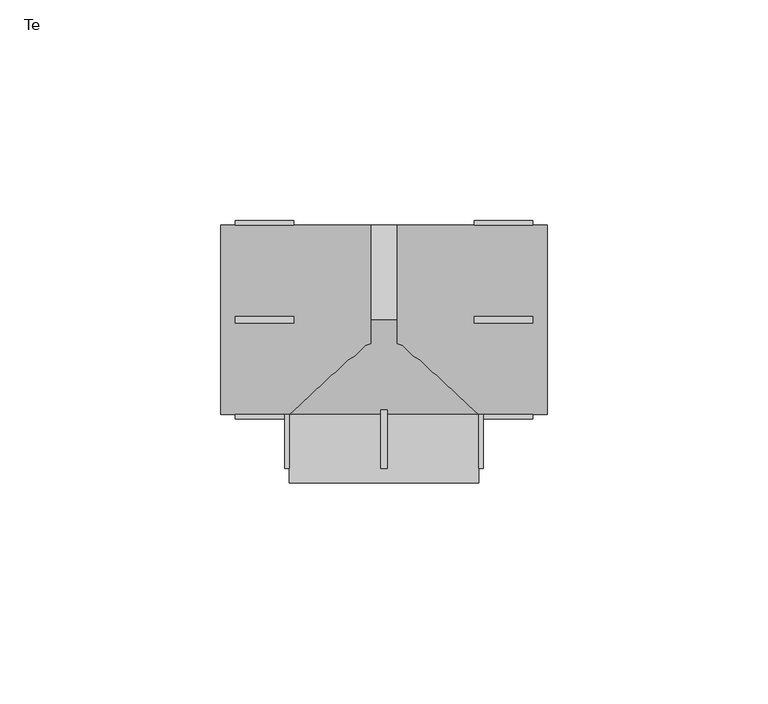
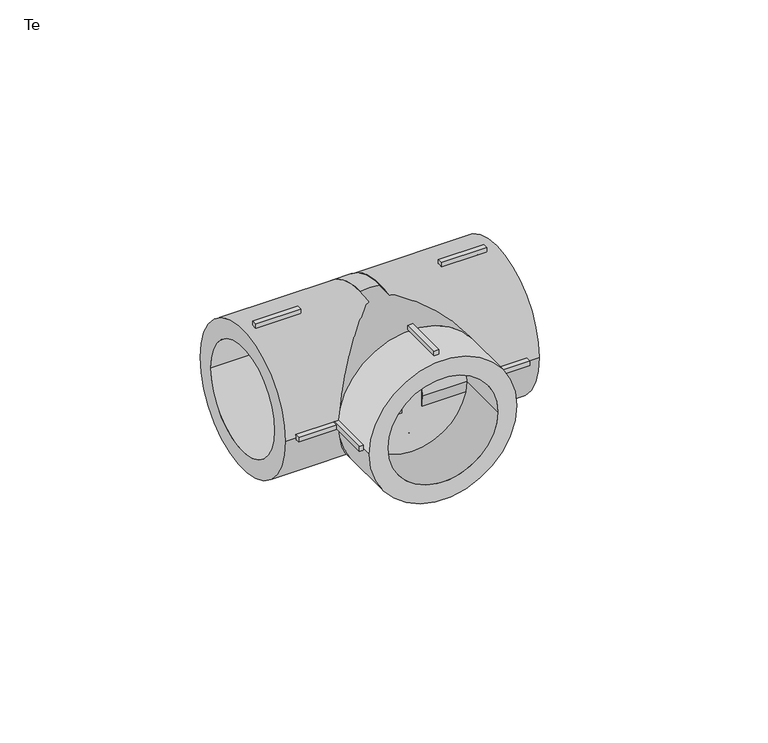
"""IFC4 building model written with IfcOpenShell, lengths in millimetres: pipe fitting geometry, EGB_VASEN_ PPR_Te WXR300_Te reducida WXR310 : Te."""

import ifcopenshell
import ifcopenshell.guid

model = None  # the IFC model being written
_history = None  # IfcOwnerHistory: only IFC2X3 demands one
_inside = {}  # id of a spatial element -> (the spatial element, [elements in it])
_under = {}  # id of a project, library or spatial element -> (it, [spatial elements below it])
_declared = {}  # id of a project -> (the project, [libraries it declares])
_typed = {}  # id of a type object -> (the type object, [elements of that type])
_made_of = {}  # id of a material, layer set ... -> (it, [elements and type objects made of it])


def new_model(schema):
    """Start an empty IFC model of exactly this schema.

    Asked for "IFC4X3", IfcOpenShell would pick the latest addendum, in which some entities
    have other attributes; the version numbers below select the first issue.
    IFC2X3 requires an IfcOwnerHistory on every rooted entity: one is made here for all.
    """
    global model, _history
    if schema == "IFC4X3":
        model = ifcopenshell.file(schema_version=(4, 3, 0, 0))
    else:
        model = ifcopenshell.file(schema=schema)
    _inside.clear()
    _under.clear()
    _declared.clear()
    _typed.clear()
    _made_of.clear()
    _history = None
    if model.schema == "IFC2X3":
        org = make("IfcOrganization", Name="unknown")
        user = make(
            "IfcPersonAndOrganization",
            ThePerson=make("IfcPerson", FamilyName="unknown"),
            TheOrganization=org,
        )
        app = make(
            "IfcApplication",
            ApplicationDeveloper=org,
            Version="unknown",
            ApplicationFullName="unknown",
            ApplicationIdentifier="unknown",
        )
        _history = make(
            "IfcOwnerHistory",
            OwningUser=user,
            OwningApplication=app,
            ChangeAction="ADDED",
            CreationDate=0,
        )
    return model


def make(cls, **values):
    """One entity of the class cls with the attributes given. An attribute that is None is left unset."""
    return model.create_entity(
        cls, **{name: value for name, value in values.items() if value is not None}
    )


def rooted(cls, **values):
    """An entity with a GlobalId (a new one), such as an element, a storey or a relation."""
    return make(cls, GlobalId=ifcopenshell.guid.new(), OwnerHistory=_history, **values)


def si_unit(unit_type, name, prefix=None):
    """IfcSIUnit, for example si_unit("LENGTHUNIT", "METRE", prefix="MILLI")."""
    return make("IfcSIUnit", UnitType=unit_type, Prefix=prefix, Name=name)


def assignment(units):
    """IfcUnitAssignment: the units of a project."""
    return None if units is None else make("IfcUnitAssignment", Units=units)


def point(xyz):
    """IfcCartesianPoint."""
    return None if xyz is None else make("IfcCartesianPoint", Coordinates=xyz)


def direction(xyz):
    """IfcDirection."""
    return None if xyz is None else make("IfcDirection", DirectionRatios=xyz)


def frame(location, z_axis=None, x_axis=None):
    """IfcAxis2Placement3D, a coordinate frame: its origin and axes. An axis left out is left unset."""
    return make(
        "IfcAxis2Placement3D",
        Location=point(location),
        Axis=direction(z_axis),
        RefDirection=direction(x_axis),
    )


def frame_2d(location, x_axis=None):
    """IfcAxis2Placement2D, a coordinate frame in the plane: its origin and x axis."""
    return make(
        "IfcAxis2Placement2D", Location=point(location), RefDirection=direction(x_axis)
    )


def origin():
    """The frame at (0, 0, 0) with its axes left unset."""
    return frame((0.0, 0.0, 0.0))


def origin_2d():
    """The frame at (0, 0) in the plane with its x axis left unset."""
    return frame_2d((0.0, 0.0))


def place(relative_to, where):
    """IfcLocalPlacement: puts the frame where relative to a parent placement (None: the world)."""
    return make(
        "IfcLocalPlacement", PlacementRelTo=relative_to, RelativePlacement=where
    )


def context(
    kind, dimensions, precision=None, world=None, true_north=None, identifier=None
):
    """IfcGeometricRepresentationContext, for example the 3D "Model" context."""
    return make(
        "IfcGeometricRepresentationContext",
        ContextIdentifier=identifier,
        ContextType=kind,
        CoordinateSpaceDimension=dimensions,
        Precision=precision,
        WorldCoordinateSystem=world,
        TrueNorth=true_north,
    )


def project(units=None, contexts=None):
    """IfcProject with its units and contexts."""
    return rooted(
        "IfcProject",
        Name="project",
        RepresentationContexts=contexts,
        UnitsInContext=assignment(units),
    )


def spatial(cls, under=None, at=None, **own):
    """A site, building, storey or space (cls), placed at a placement, below another one or the project."""
    s = rooted(cls, ObjectPlacement=at, **own)
    if under is not None:
        _under.setdefault(under.id(), (under, []))[1].append(s)
    return s


def polyline(points):
    """IfcPolyline through the points."""
    return make("IfcPolyline", Points=[point(p) for p in points])


def circle_curve(where, radius):
    """IfcCircle in the frame where."""
    return make("IfcCircle", Position=where, Radius=radius)


def trimmed(basis, trim1, trim2, sense, master):
    """IfcTrimmedCurve: the piece of a basis curve between two trims."""
    return make(
        "IfcTrimmedCurve",
        BasisCurve=basis,
        Trim1=trim1,
        Trim2=trim2,
        SenseAgreement=sense,
        MasterRepresentation=master,
    )


def segment(curve, same_sense, transition):
    """IfcCompositeCurveSegment."""
    return make(
        "IfcCompositeCurveSegment",
        Transition=transition,
        SameSense=same_sense,
        ParentCurve=curve,
    )


def composite_curve(segments, self_intersect=None):
    """IfcCompositeCurve: segments joined end to end."""
    return make("IfcCompositeCurve", Segments=segments, SelfIntersect=self_intersect)


def outline(outer, holes=None, kind="AREA"):
    """IfcArbitraryClosedProfileDef: a profile drawn as a closed curve; with holes, ...WithVoids."""
    if holes is None:
        return make("IfcArbitraryClosedProfileDef", ProfileType=kind, OuterCurve=outer)
    return make(
        "IfcArbitraryProfileDefWithVoids",
        ProfileType=kind,
        OuterCurve=outer,
        InnerCurves=holes,
    )


def extrude(swept, where, along, depth):
    """IfcExtrudedAreaSolid: the profile swept, set in the frame where, extruded along a direction by depth."""
    return make(
        "IfcExtrudedAreaSolid",
        SweptArea=swept,
        Position=where,
        ExtrudedDirection=direction(along),
        Depth=depth,
    )


def shape(context_of_items, identifier, shape_type, items):
    """IfcShapeRepresentation: the items that make up one representation, for example the "Body"."""
    return make(
        "IfcShapeRepresentation",
        ContextOfItems=context_of_items,
        RepresentationIdentifier=identifier,
        RepresentationType=shape_type,
        Items=items,
    )


def source(mapping_origin, context_of_items, identifier, shape_type, items):
    """IfcRepresentationMap: a shape defined once, which mapped items show again and again."""
    return make(
        "IfcRepresentationMap",
        MappingOrigin=mapping_origin,
        MappedRepresentation=shape(context_of_items, identifier, shape_type, items),
    )


def transform(
    local_origin,
    x_axis=None,
    y_axis=None,
    z_axis=None,
    scale=None,
    scale2=None,
    scale3=None,
    uniform=True,
):
    """IfcCartesianTransformationOperator3D, or its non-uniform kind. x_axis, y_axis, z_axis: its Axis1, 2, 3."""
    if uniform:
        return make(
            "IfcCartesianTransformationOperator3D",
            Axis1=direction(x_axis),
            Axis2=direction(y_axis),
            LocalOrigin=point(local_origin),
            Scale=scale,
            Axis3=direction(z_axis),
        )
    return make(
        "IfcCartesianTransformationOperator3DnonUniform",
        Axis1=direction(x_axis),
        Axis2=direction(y_axis),
        LocalOrigin=point(local_origin),
        Scale=scale,
        Axis3=direction(z_axis),
        Scale2=scale2,
        Scale3=scale3,
    )


def mapped(mapping_source, mapping_target):
    """IfcMappedItem: shows the shape of a source again, moved by a transform."""
    return make(
        "IfcMappedItem", MappingSource=mapping_source, MappingTarget=mapping_target
    )


def made_of(thing, what):
    """Note that an element or type object is made of a material, layer set ...; save() writes the relation."""
    if what is not None:
        _made_of.setdefault(what.id(), (what, []))[1].append(thing)
    return thing


def element(
    cls,
    number,
    at=None,
    inside=None,
    cuts=None,
    type_object=None,
    material=None,
    context=None,
    identifier="Body",
    shape_type=None,
    held_by="IfcProductDefinitionShape",
    body=None,
    shapes=None,
    **own,
):
    """One element of the class cls, such as IfcWall. Its Tag is "e" and its number.

    at: its placement. inside: the storey or other place that contains it. cuts: it is an
    opening in that element (IfcRelVoidsElement). A single representation is given by context,
    identifier, shape_type and body (its items); several are given by shapes. held_by: the class
    of the entity that holds the representations. save() writes the other relations.
    """
    e = rooted(cls, Tag="e%d" % number, ObjectPlacement=at, **own)
    if body is not None:
        shapes = [shape(context, identifier, shape_type, body)]
    if shapes is not None:
        e.Representation = make(held_by, Representations=shapes)
    if inside is not None:
        _inside.setdefault(inside.id(), (inside, []))[1].append(e)
    if cuts is not None:
        rooted(
            "IfcRelVoidsElement", RelatingBuildingElement=cuts, RelatedOpeningElement=e
        )
    if type_object is not None:
        _typed.setdefault(type_object.id(), (type_object, []))[1].append(e)
    return made_of(e, material)


def aggregate(whole, parts):
    """IfcRelAggregates: a whole, such as a stair, and the parts it consists of."""
    return rooted("IfcRelAggregates", RelatingObject=whole, RelatedObjects=parts)


def save(model, path):
    """Write the relations noted so far, then the file.

    IfcRelAggregates (storeys below a building ...), IfcRelContainedInSpatialStructure (elements
    in a storey), IfcRelDefinesByType, IfcRelAssociatesMaterial and IfcRelDeclares: one each for
    every whole, place, type object, material and project.
    """
    for whole, parts in _under.values():
        aggregate(whole, parts)
    for where, things in _inside.values():
        rooted(
            "IfcRelContainedInSpatialStructure",
            RelatedElements=things,
            RelatingStructure=where,
        )
    for kind, things in _typed.values():
        rooted("IfcRelDefinesByType", RelatedObjects=things, RelatingType=kind)
    for what, things in _made_of.values():
        rooted("IfcRelAssociatesMaterial", RelatedObjects=things, RelatingMaterial=what)
    for by, libraries in _declared.values():
        rooted("IfcRelDeclares", RelatingContext=by, RelatedDefinitions=libraries)
    model.write(path)


def te_3c2a9284(model_context):
    return source(origin(), model_context, "Body", "SweptSolid", [
        extrude(outline(polyline([(-0.75, -20.5), (0.75, -20.5), (0.75, -33.7), (-0.75, -33.7), (-0.75, -20.5)])), frame((0.0, 0.0, 20.5), z_axis=(0.0, 0.0, 1.0), x_axis=(1.0, 0.0, 0.0)), (0.0, 0.0, 1.0), 2.0),
        extrude(outline(polyline([(-0.75, -20.5), (0.75, -20.5), (0.75, -33.7), (-0.75, -33.7), (-0.75, -20.5)])), frame((0.0, 0.0, -22.5), z_axis=(0.0, 0.0, 1.0), x_axis=(1.0, 0.0, 0.0)), (0.0, 0.0, 1.0), 2.0),
        extrude(outline(polyline([(20.5, -20.5), (22.5, -20.5), (22.5, -33.7), (20.5, -33.7), (20.5, -20.5)])), frame((0.0, 0.0, -0.75), z_axis=(0.0, 0.0, 1.0), x_axis=(1.0, 0.0, 0.0)), (0.0, 0.0, 1.0), 1.5),
        extrude(outline(polyline([(-22.5, -20.5), (-20.5, -20.5), (-20.5, -33.7), (-22.5, -33.7), (-22.5, -20.5)])), frame((0.0, 0.0, -0.75), z_axis=(0.0, 0.0, 1.0), x_axis=(1.0, 0.0, 0.0)), (0.0, 0.0, 1.0), 1.5),
        extrude(outline(polyline([(20.5, -0.75), (20.5, 0.75), (33.7, 0.75), (33.7, -0.75), (20.5, -0.75)])), frame((0.0, 0.0, 20.5), z_axis=(0.0, 0.0, 1.0), x_axis=(1.0, 0.0, 0.0)), (0.0, 0.0, 1.0), 2.0),
        extrude(outline(polyline([(20.5, -0.75), (20.5, 0.75), (33.7, 0.75), (33.7, -0.75), (20.5, -0.75)])), frame((0.0, 0.0, -22.5), z_axis=(0.0, 0.0, 1.0), x_axis=(1.0, 0.0, 0.0)), (0.0, 0.0, 1.0), 2.0),
        extrude(outline(polyline([(20.5, 20.5), (20.5, 22.5), (33.7, 22.5), (33.7, 20.5), (20.5, 20.5)])), frame((0.0, 0.0, -0.75), z_axis=(0.0, 0.0, 1.0), x_axis=(1.0, 0.0, 0.0)), (0.0, 0.0, 1.0), 1.5),
        extrude(outline(polyline([(20.5, -22.5), (20.5, -20.5), (33.7, -20.5), (33.7, -22.5), (20.5, -22.5)])), frame((0.0, 0.0, -0.75), z_axis=(0.0, 0.0, 1.0), x_axis=(1.0, 0.0, 0.0)), (0.0, 0.0, 1.0), 1.5),
        extrude(outline(polyline([(-20.5, 0.75), (-20.5, -0.75), (-33.7, -0.75), (-33.7, 0.75), (-20.5, 0.75)])), frame((0.0, 0.0, 20.5), z_axis=(0.0, 0.0, 1.0), x_axis=(1.0, 0.0, 0.0)), (0.0, 0.0, 1.0), 2.0),
        extrude(outline(polyline([(-20.5, 0.75), (-20.5, -0.75), (-33.7, -0.75), (-33.7, 0.75), (-20.5, 0.75)])), frame((0.0, 0.0, -22.5), z_axis=(0.0, 0.0, 1.0), x_axis=(1.0, 0.0, 0.0)), (0.0, 0.0, 1.0), 2.0),
        extrude(outline(polyline([(-20.5, 22.5), (-20.5, 20.5), (-33.7, 20.5), (-33.7, 22.5), (-20.5, 22.5)])), frame((0.0, 0.0, -0.75), z_axis=(0.0, 0.0, 1.0), x_axis=(1.0, 0.0, 0.0)), (0.0, 0.0, 1.0), 1.5),
        extrude(outline(polyline([(-20.5, -20.5), (-20.5, -22.5), (-33.7, -22.5), (-33.7, -20.5), (-20.5, -20.5)])), frame((0.0, 0.0, -0.75), z_axis=(0.0, 0.0, 1.0), x_axis=(1.0, 0.0, 0.0)), (0.0, 0.0, 1.0), 1.5),
        extrude(outline(composite_curve([segment(trimmed(circle_curve(origin_2d(), 21.5), [point((0.0, 21.5))], [point((0.0, -21.5))], False, "CARTESIAN"), True, "CONTINUOUS"), segment(trimmed(circle_curve(origin_2d(), 21.5), [point((0.0, -21.5))], [point((0.0, 21.5))], False, "CARTESIAN"), True, "CONTINUOUS")], self_intersect=False), holes=[composite_curve([segment(trimmed(circle_curve(origin_2d(), 16.0), [point((0.0, 16.0))], [point((0.0, -16.0))], True, "CARTESIAN"), True, "CONTINUOUS"), segment(trimmed(circle_curve(origin_2d(), 16.0), [point((0.0, -16.0))], [point((0.0, 16.0))], True, "CARTESIAN"), True, "CONTINUOUS")], self_intersect=False)]), frame((0.0, -37.0, 0.0), z_axis=(0.0, 1.0, 0.0), x_axis=(0.0, 0.0, 1.0)), (0.0, 0.0, 1.0), 15.5),
        extrude(outline(composite_curve([segment(trimmed(circle_curve(origin_2d(), 21.5), [point((-21.5, 0.0))], [point((21.5, 0.0))], False, "CARTESIAN"), True, "CONTINUOUS"), segment(trimmed(circle_curve(origin_2d(), 21.5), [point((21.5, 0.0))], [point((-21.5, 0.0))], False, "CARTESIAN"), True, "CONTINUOUS")], self_intersect=False), holes=[composite_curve([segment(trimmed(circle_curve(origin_2d(), 16.0), [point((-16.0, 0.0))], [point((16.0, 0.0))], True, "CARTESIAN"), True, "CONTINUOUS"), segment(trimmed(circle_curve(origin_2d(), 16.0), [point((16.0, 0.0))], [point((-16.0, 0.0))], True, "CARTESIAN"), True, "CONTINUOUS")], self_intersect=False)]), frame((2.96, 0.0, 0.0), z_axis=(1.0, 0.0, 0.0), x_axis=(0.0, 1.0, 0.0)), (0.0, 0.0, 1.0), 34.04),
        extrude(outline(composite_curve([segment(trimmed(circle_curve(origin_2d(), 21.5), [point((-21.5, 0.0))], [point((21.5, 0.0))], False, "CARTESIAN"), True, "CONTINUOUS"), segment(trimmed(circle_curve(origin_2d(), 21.5), [point((21.5, 0.0))], [point((-21.5, 0.0))], False, "CARTESIAN"), True, "CONTINUOUS")], self_intersect=False), holes=[composite_curve([segment(trimmed(circle_curve(origin_2d(), 16.0), [point((-16.0, 0.0))], [point((16.0, 0.0))], True, "CARTESIAN"), True, "CONTINUOUS"), segment(trimmed(circle_curve(origin_2d(), 16.0), [point((16.0, 0.0))], [point((-16.0, 0.0))], True, "CARTESIAN"), True, "CONTINUOUS")], self_intersect=False)]), frame((-37.0, 0.0, 0.0), z_axis=(1.0, 0.0, 0.0), x_axis=(0.0, 1.0, 0.0)), (0.0, 0.0, 1.0), 34.04),
        extrude(outline(composite_curve([segment(trimmed(circle_curve(origin_2d(), 21.5), [point((0.0, 21.5))], [point((0.0, -21.5))], False, "CARTESIAN"), True, "CONTINUOUS"), segment(trimmed(circle_curve(origin_2d(), 21.5), [point((0.0, -21.5))], [point((0.0, 21.5))], False, "CARTESIAN"), True, "CONTINUOUS")], self_intersect=False)), frame((0.0, -21.5, 0.0), z_axis=(0.0, 1.0, 0.0), x_axis=(0.0, 0.0, 1.0)), (0.0, 0.0, 1.0), 21.5),
        extrude(outline(composite_curve([segment(trimmed(circle_curve(origin_2d(), 21.5), [point((-21.5, 0.0))], [point((21.5, 0.0))], False, "CARTESIAN"), True, "CONTINUOUS"), segment(trimmed(circle_curve(origin_2d(), 21.5), [point((21.5, 0.0))], [point((-21.5, 0.0))], False, "CARTESIAN"), True, "CONTINUOUS")], self_intersect=False)), frame((-2.96, 0.0, 0.0), z_axis=(1.0, 0.0, 0.0), x_axis=(0.0, 1.0, 0.0)), (0.0, 0.0, 1.0), 5.92),
    ])


if __name__ == "__main__":
    model = new_model("IFC4")
    model_context = context("Model", 3, world=origin())
    ifc_project = project(units=[si_unit("LENGTHUNIT", "METRE", prefix="MILLI")], contexts=[model_context])
    site = spatial("IfcSite", under=ifc_project)
    building = spatial("IfcBuilding", under=site)
    placement = place(None, origin())
    te_shape = te_3c2a9284(model_context)
    element("IfcPipeFitting", 1, ObjectType="EGB_VASEN_ PPR_Te WXR300_Te reducida WXR310 : Te", at=placement, inside=building, context=model_context, shape_type="MappedRepresentation", body=[
        mapped(te_shape, transform((0.0, 0.0, 0.0), x_axis=(1.0, 0.0, 0.0), y_axis=(0.0, 1.0, 0.0), z_axis=(0.0, 0.0, 1.0))),
    ])
    save(model, "model.ifc")
